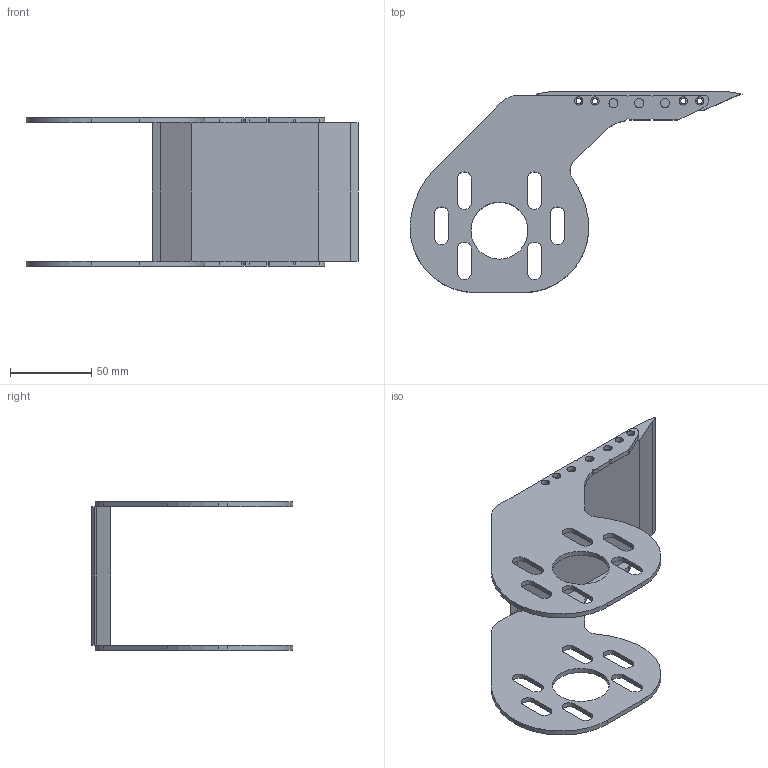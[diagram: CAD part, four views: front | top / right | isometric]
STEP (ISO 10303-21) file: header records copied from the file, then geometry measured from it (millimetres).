
FILE_DESCRIPTION (( 'STEP AP214' ), '1' );
FILE_NAME ('FMPT-plaque.STEP', '2010-04-19T06:46:16', ( '.' ), ( '' ), 'SwSTEP 2.0', 'SolidWorks 2009', '' );
FILE_SCHEMA (( 'AUTOMOTIVE_DESIGN' ));
Length unit declared in the file: millimetre
Products named in the file (1): FMPT-plaque
Bounding box: 203.72 x 123.55 x 91 mm (x, y, z)
Surface area: 68271.6 mm2 (no closed solid volume)
Topology: 0 solids, 3 shells, 154 faces, 460 edges, 312 vertices
Faces by surface type: cylinder 82, plane 72
Entity records: 7095 total; most frequent: DIRECTION 950, CARTESIAN_POINT 927, ORIENTED_EDGE 904, EDGE_CURVE 460, AXIS2_PLACEMENT_3D 335, VERTEX_POINT 312, VECTOR 280, LINE 280
